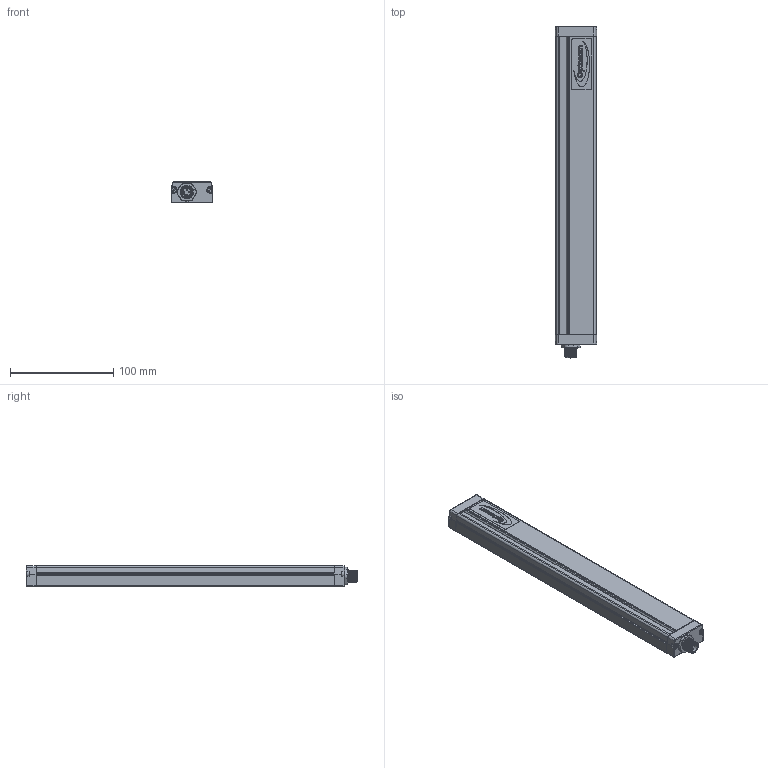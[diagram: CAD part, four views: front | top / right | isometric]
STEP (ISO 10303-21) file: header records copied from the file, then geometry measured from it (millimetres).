
FILE_DESCRIPTION(/* description */ (''),/* implementation_level */ '2;1');
FILE_NAME(/* name */ 'C:\Users\andre\SynologyDrive\Optoscan\Libreria Componenti\00 - Barriere\Polaris sorgente\Polaris_290_TX.stp',/* time_stamp */ '2021-06-04T10:53:58+02:00',/* author */ ('andre'),/* organization */ (''),/* preprocessor_version */ 'ST-DEVELOPER v18',/* originating_system */ 'Autodesk Inventor 2020',/* authorisation */ '');
FILE_SCHEMA (('AUTOMOTIVE_DESIGN { 1 0 10303 214 3 1 1 }'));
Length unit declared in the file: millimetre
Products named in the file (1): Polaris_290_TX
Bounding box: 40.5 x 320.8 x 20.75 mm (x, y, z)
Volume: 67306.3 mm3; surface area: 84504.1 mm2
Topology: 1 solids, 1 shells, 743 faces, 2072 edges, 1332 vertices
Faces by surface type: plane 332, cylinder 208, bspline 115, torus 74, cone 8, sphere 6
Full cylindrical faces by diameter (mm): 1 x8, 2.459 x4, 2.5 x4, 3 x4, 3.5 x4, 5.5 x4, 8 x1, 10.5 x2, 11.75 x9, 12 x1, 12.3 x3, 14.5 x1, 16.7 x1, 17.5 x1
Entity records: 30714 total; most frequent: CARTESIAN_POINT 11308, ORIENTED_EDGE 4130, DIRECTION 3590, EDGE_CURVE 2065, VERTEX_POINT 1333, AXIS2_PLACEMENT_3D 1263, LINE 1064, VECTOR 1064
